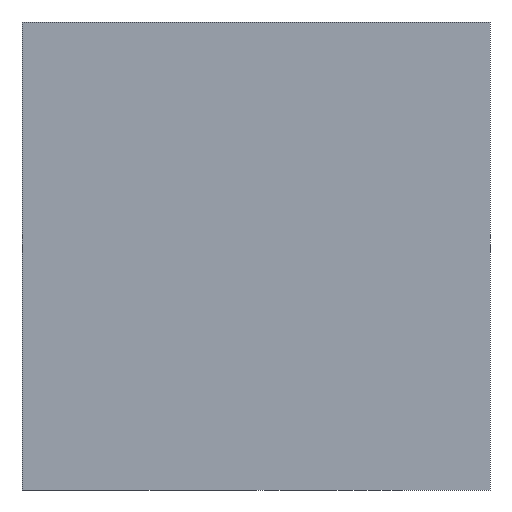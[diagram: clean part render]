
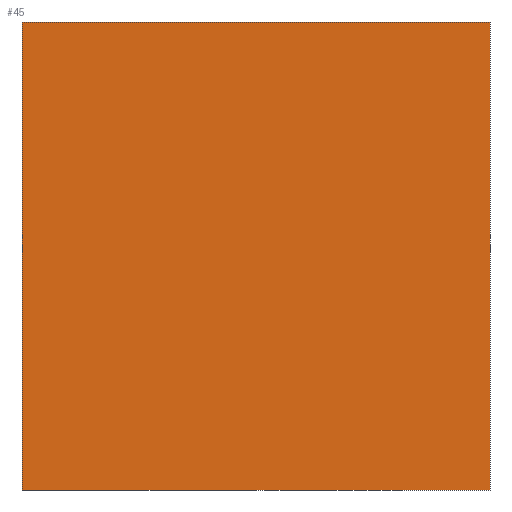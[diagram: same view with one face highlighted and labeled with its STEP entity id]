
A CAD part, left-side view. The second image highlights one B-rep face of the part: STEP entity #45.
In plain terms, the highlighted planar face has unit normal (-1, 0, 0).
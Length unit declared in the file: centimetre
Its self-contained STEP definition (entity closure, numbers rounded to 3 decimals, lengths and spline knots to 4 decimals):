
#27 = LINE ( 'NONE', #223, #120 ) ;
#36 = CARTESIAN_POINT ( 'NONE',  ( 0., 1000., 1000. ) ) ;
#44 = LINE ( 'NONE', #238, #494 ) ;
#45 = ADVANCED_FACE ( 'NONE', ( #171 ), #408, .F. ) ;
#74 = CARTESIAN_POINT ( 'NONE',  ( 0., 1000., 1000. ) ) ;
#77 = DIRECTION ( 'NONE',  ( 0., 0., -1. ) ) ;
#101 = EDGE_CURVE ( 'NONE', #298, #302, #279, .T. ) ;
#109 = CARTESIAN_POINT ( 'NONE',  ( 0., 1000., 0. ) ) ;
#117 = CARTESIAN_POINT ( 'NONE',  ( 0., 0., 0. ) ) ;
#120 = VECTOR ( 'NONE', #605, 100. ) ;
#171 = FACE_OUTER_BOUND ( 'NONE', #211, .T. ) ;
#173 = CARTESIAN_POINT ( 'NONE',  ( 0., 0., 1000. ) ) ;
#186 = DIRECTION ( 'NONE',  ( 1., 0., 0. ) ) ;
#211 = EDGE_LOOP ( 'NONE', ( #512, #475, #392, #303 ) ) ;
#223 = CARTESIAN_POINT ( 'NONE',  ( 0., 1000., 1000. ) ) ;
#235 = DIRECTION ( 'NONE',  ( 0., -1., 0. ) ) ;
#236 = EDGE_CURVE ( 'NONE', #277, #302, #44, .T. ) ;
#238 = CARTESIAN_POINT ( 'NONE',  ( 0., 1000., 0. ) ) ;
#277 = VERTEX_POINT ( 'NONE', #109 ) ;
#279 = LINE ( 'NONE', #591, #442 ) ;
#298 = VERTEX_POINT ( 'NONE', #173 ) ;
#302 = VERTEX_POINT ( 'NONE', #117 ) ;
#303 = ORIENTED_EDGE ( 'NONE', *, *, #409, .T. ) ;
#312 = AXIS2_PLACEMENT_3D ( 'NONE', #36, #186, #77 ) ;
#318 = DIRECTION ( 'NONE',  ( 0., 0., -1. ) ) ;
#324 = CARTESIAN_POINT ( 'NONE',  ( 0., 1000., 1000. ) ) ;
#329 = VERTEX_POINT ( 'NONE', #324 ) ;
#350 = VECTOR ( 'NONE', #391, 100. ) ;
#391 = DIRECTION ( 'NONE',  ( 0., 0., -1. ) ) ;
#392 = ORIENTED_EDGE ( 'NONE', *, *, #483, .F. ) ;
#408 = PLANE ( 'NONE',  #312 ) ;
#409 = EDGE_CURVE ( 'NONE', #329, #277, #484, .T. ) ;
#442 = VECTOR ( 'NONE', #318, 100. ) ;
#475 = ORIENTED_EDGE ( 'NONE', *, *, #101, .F. ) ;
#483 = EDGE_CURVE ( 'NONE', #329, #298, #27, .T. ) ;
#484 = LINE ( 'NONE', #74, #350 ) ;
#494 = VECTOR ( 'NONE', #235, 100. ) ;
#512 = ORIENTED_EDGE ( 'NONE', *, *, #236, .T. ) ;
#591 = CARTESIAN_POINT ( 'NONE',  ( 0., 0., 1000. ) ) ;
#605 = DIRECTION ( 'NONE',  ( 0., -1., 0. ) ) ;
